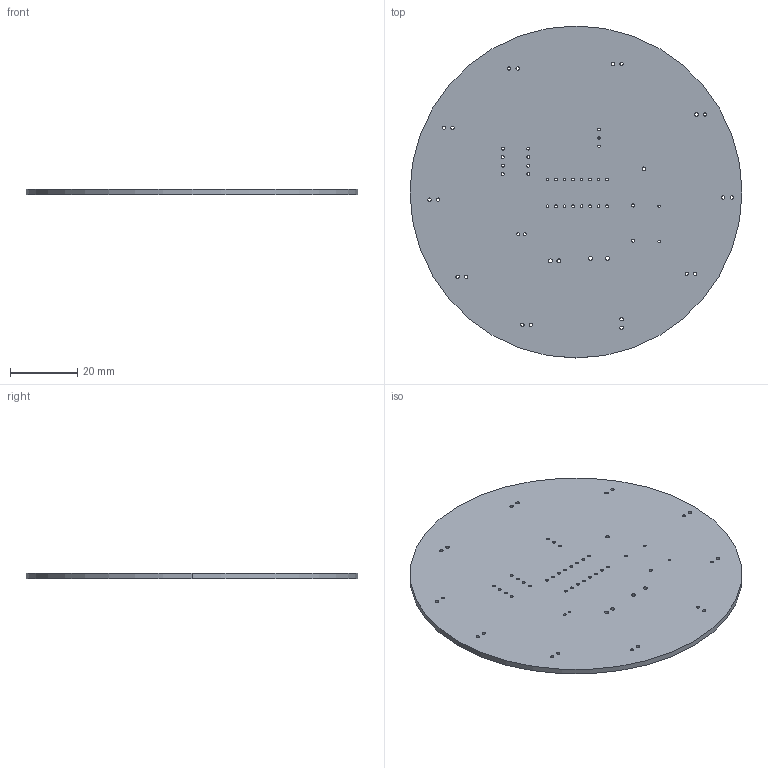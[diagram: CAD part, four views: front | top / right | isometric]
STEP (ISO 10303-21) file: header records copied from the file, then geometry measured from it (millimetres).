
FILE_DESCRIPTION(('Designed by EasyEDA Pro'),'2;1');
FILE_NAME('Open CASCADE Shape Model','2026-06-09T21:38:58',('Author'),( 'Open CASCADE'),'Open CASCADE STEP processor 7.8','Open CASCADE 7.8' ,'Unknown');
FILE_SCHEMA(('AUTOMOTIVE_DESIGN { 1 0 10303 214 1 1 1 1 }'));
Length unit declared in the file: millimetre
Products named in the file (6): EasyEDA PCB Model~8qfS; Board~8qfS; TopCopper~8qfS; BottomCopper~8qfS; TopFpcStiffener~8qfS; BottomFpcStiffener~8qfS
Assembly tree (5 placements, depth 2):
  EasyEDA PCB Model~8qfS
    Board~8qfS
    TopCopper~8qfS
    BottomCopper~8qfS
    TopFpcStiffener~8qfS
    BottomFpcStiffener~8qfS
Bounding box: 99.03 x 99.03 x 1.6 mm (x, y, z)
Volume: 12263.3 mm3; surface area: 16093 mm2
Topology: 1 solids, 1 shells, 120 faces, 354 edges, 236 vertices
Faces by surface type: cylinder 118, plane 2
Entity records: 5324 total; most frequent: DIRECTION 842, CARTESIAN_POINT 716, ORIENTED_EDGE 708, AXIS2_PLACEMENT_3D 362, EDGE_CURVE 354, FACE_BOUND 236, EDGE_LOOP 236, VERTEX_POINT 236
